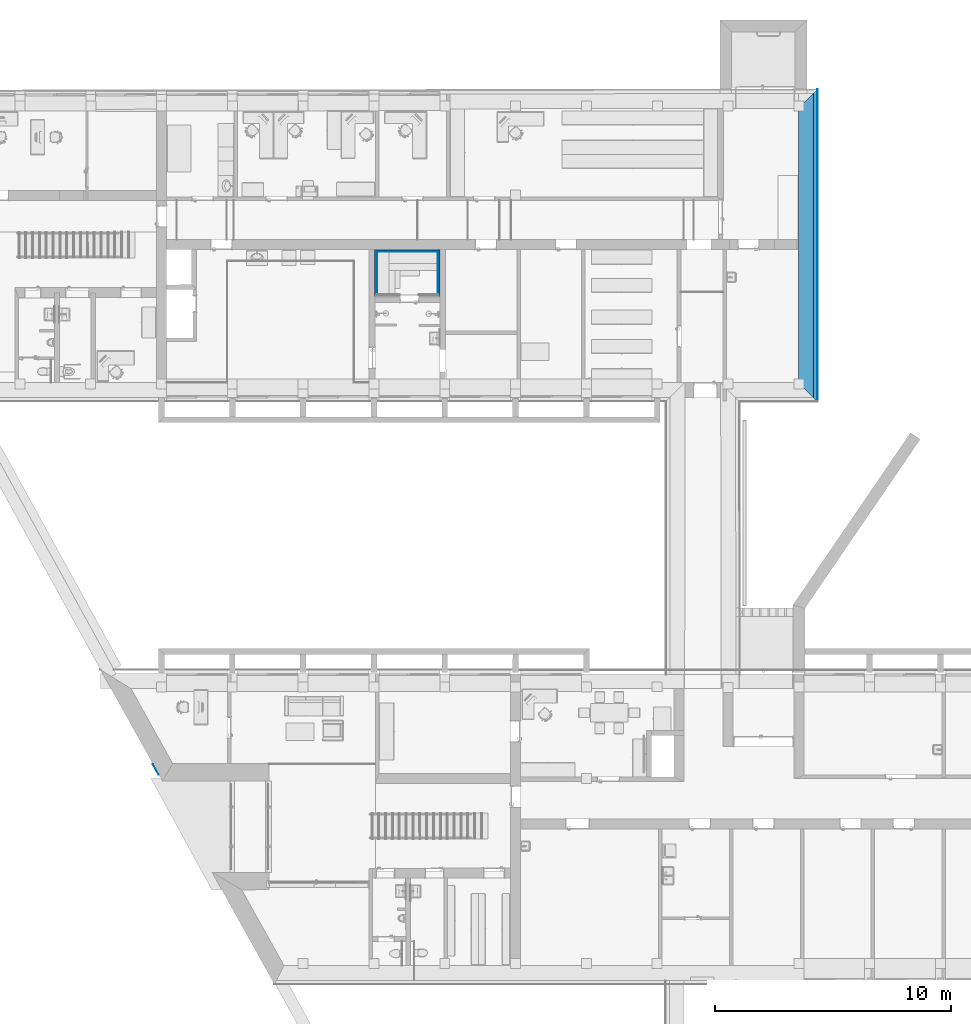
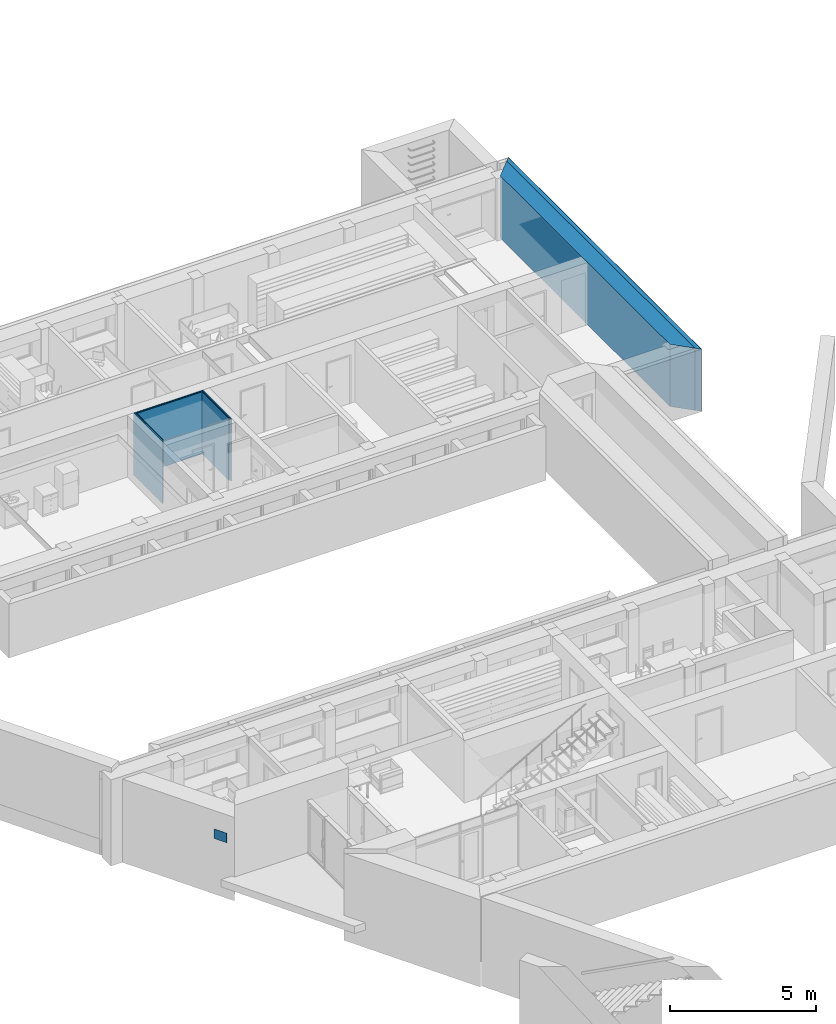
# One storey, part 31 of 127: 12 building element parts, 1 discrete accessory, 4 elements without a shape of their own.
"""IFC2X3 building model written with IfcOpenShell, lengths in millimetres."""

from ifc_helpers import new_model, entity, si_unit, converted_unit, derived_unit, money_unit, direction, frame, origin_with_axes, place, context, subcontext, project, spatial, polyline, outline, extrude, faceted_brep, source, transform, mapped, material, type_object, element, aggregate, save


model = new_model("IFC2X3")

# Units and contexts
model_context = context("Model", 3, precision=1e-05, world=origin_with_axes(), true_north=direction((0.0, 1.0)))
body_context = subcontext(model_context, "Body", "Model", "MODEL_VIEW")
ifc_project = project(units=[si_unit("LENGTHUNIT", "METRE", prefix="MILLI"), si_unit("AREAUNIT", "SQUARE_METRE"), si_unit("VOLUMEUNIT", "CUBIC_METRE"), converted_unit("PLANEANGLEUNIT", "DEGREE", entity("IfcPlaneAngleMeasure", 0.0174532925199), si_unit("PLANEANGLEUNIT", "RADIAN"), dimensions=[0, 0, 0, 0, 0, 0, 0]), si_unit("SOLIDANGLEUNIT", "STERADIAN"), money_unit("EUR"), converted_unit("TIMEUNIT", "Year", entity("IfcTimeMeasure", 31556926.0), si_unit("TIMEUNIT", "SECOND"), dimensions=[0, 0, 1, 0, 0, 0, 0]), si_unit("MASSUNIT", "GRAM", prefix="KILO"), si_unit("THERMODYNAMICTEMPERATUREUNIT", "DEGREE_CELSIUS"), si_unit("LUMINOUSINTENSITYUNIT", "LUMEN"), si_unit("ENERGYUNIT", "JOULE", prefix="MEGA"), derived_unit("THERMALCONDUCTANCEUNIT", [(si_unit("POWERUNIT", "WATT"), 1), (si_unit("LENGTHUNIT", "METRE"), -1), (si_unit("THERMODYNAMICTEMPERATUREUNIT", "KELVIN"), -1)]), derived_unit("SPECIFICHEATCAPACITYUNIT", [(si_unit("ENERGYUNIT", "JOULE"), 1), (si_unit("MASSUNIT", "GRAM", prefix="KILO"), -1), (si_unit("THERMODYNAMICTEMPERATUREUNIT", "KELVIN"), -1)]), derived_unit("MASSDENSITYUNIT", [(si_unit("MASSUNIT", "GRAM", prefix="KILO"), 1), (si_unit("VOLUMEUNIT", "CUBIC_METRE"), -1)])], contexts=[model_context])

# Site, building, storey
site_placement = place(None, origin_with_axes())
site = spatial("IfcSite", under=ifc_project, at=site_placement, Name="Site", CompositionType="ELEMENT")
building_placement = place(site_placement, origin_with_axes())
building = spatial("IfcBuilding", under=site, at=building_placement, Name="Building", CompositionType="ELEMENT")
storey_placement = place(building_placement, origin_with_axes())
storey = spatial("IfcBuildingStorey", under=building, at=storey_placement, Name="1 KORRUS", CompositionType="ELEMENT", Elevation=0.0)

# Discrete accessory
discrete_accessory_type = type_object("IfcDiscreteAccessoryType", Name="Cube 22")
shared_shape = source(origin_with_axes(), body_context, "Body", "Brep", [
    faceted_brep([(10.0, 0.0, 0.0), (0.0, 0.0, 0.0), (0.0, 500.0, 0.0), (10.0, 500.0, 0.0), (10.0, 0.0, 400.0), (0.0, 0.0, 400.0), (0.0, 500.0, 400.0), (10.0, 500.0, 400.0)], [[[0, 1, 2, 3]], [[1, 0, 4, 5]], [[2, 1, 5, 6]], [[3, 2, 6, 7]], [[0, 3, 7, 4]], [[5, 4, 7, 6]]]),
])
discrete_accessory_placement = place(storey_placement, frame((15590.9994611, 43415.1828646, 1323.05641988), z_axis=(0.0, 0.0, 1.0), x_axis=(-0.876214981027, -0.481920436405, 0.0)))
element("IfcDiscreteAccessory", 1, at=discrete_accessory_placement, inside=storey, type_object=discrete_accessory_type, Name="FU - 001", context=body_context, shape_type="MappedRepresentation", body=[
    mapped(shared_shape, transform((0.0, 0.0, 0.0))),
])

# Wall, building element parts
wall_type_1 = type_object("IfcWallType", Name="VS-3", PredefinedType="NOTDEFINED")
wall_1_placement = place(storey_placement, frame((43567.718217, 71831.6443043, 0.0), z_axis=(0.0, 0.0, 1.0), x_axis=(3.09948179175e-06, -0.999999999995, 0.0)))
wall_1 = element("IfcWall", 2, at=wall_1_placement, inside=storey, type_object=wall_type_1, Name="VS3 krohv")
ifc_material_1 = material(Name="Kivi - Ol.Olev Konstruktsioon")
building_element_part_1_placement = place(wall_1_placement, origin_with_axes())
building_element_part_1 = element("IfcBuildingElementPart", 3, at=building_element_part_1_placement, material=ifc_material_1, Name="Kivi - Ol.Olev Konstruktsioon", context=body_context, shape_type="SweptSolid", body=[
    extrude(outline(polyline([(630.780513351, -630.0), (12252.1619623, -630.0), (12882.163915, 0.0), (-15.7500120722, 1.13686837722e-10), (630.780513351, -630.0)])), origin_with_axes(), (0.0, 0.0, 1.0), 2600.0),
])
ifc_material_2 = material(Name="Soojustus - Plastik Kõva")
building_element_part_2_placement = place(wall_1_placement, origin_with_axes())
building_element_part_2 = element("IfcBuildingElementPart", 4, at=building_element_part_2_placement, material=ifc_material_2, Name="Soojustus - Plastik Kõva", context=body_context, shape_type="SweptSolid", body=[
    extrude(outline(polyline([(-15.7500120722, 1.13686837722e-10), (12882.163915, 0.0), (13042.1644109, 160.0), (-179.94824075, 160.0), (-15.7500120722, 1.13686837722e-10)])), origin_with_axes(), (0.0, 0.0, 1.0), 2600.0),
])
ifc_material_3 = material(Name="Krohv - Õhekrohv")
building_element_part_3_placement = place(wall_1_placement, origin_with_axes())
building_element_part_3 = element("IfcBuildingElementPart", 5, at=building_element_part_3_placement, material=ifc_material_3, Name="Krohv - Õhekrohv", context=body_context, shape_type="SweptSolid", body=[
    extrude(outline(polyline([(-179.94824075, 160.0), (13042.1644109, 160.0), (13052.1644419, 170.0), (-190.210630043, 170.0), (-179.94824075, 160.0)])), origin_with_axes(), (0.0, 0.0, 1.0), 2600.0),
])
aggregate(wall_1, [building_element_part_1, building_element_part_2, building_element_part_3])

wall_type_2 = type_object("IfcWallType", Name="SS-3", PredefinedType="NOTDEFINED")
wall_2_placement = place(storey_placement, frame((25075.1366535, 63317.8824025, 0.0), z_axis=(0.0, 0.0, 1.0), x_axis=(0.0, 1.0, 0.0)))
wall_2 = element("IfcWall", 6, at=wall_2_placement, inside=storey, type_object=wall_type_2, Name="SS-3")
ifc_material_4 = material(Name="Puitplaat")
building_element_part_4_placement = place(wall_2_placement, origin_with_axes())
building_element_part_4 = element("IfcBuildingElementPart", 7, at=building_element_part_4_placement, material=ifc_material_4, Name="Puitplaat", context=body_context, shape_type="SweptSolid", body=[
    extrude(outline(polyline([(0.0, 0.0), (1811.48665511, 0.0), (1826.48665512, 15.0), (-15.0000000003, 15.0), (0.0, 0.0)])), origin_with_axes(), (0.0, 0.0, 1.0), 2600.0),
])
ifc_material_5 = material(Name="Air Space")
building_element_part_5_placement = place(wall_2_placement, origin_with_axes())
building_element_part_5 = element("IfcBuildingElementPart", 8, at=building_element_part_5_placement, material=ifc_material_5, Name="Air Space", context=body_context, shape_type="SweptSolid", body=[
    extrude(outline(polyline([(-15.0000000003, 15.0), (1826.48665512, 15.0), (1848.48665513, 37.0), (-37.0000000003, 37.0), (-15.0000000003, 15.0)])), origin_with_axes(), (0.0, 0.0, 1.0), 2600.0),
])
building_element_part_6_placement = place(wall_2_placement, origin_with_axes())
building_element_part_6 = element("IfcBuildingElementPart", 9, at=building_element_part_6_placement, material=ifc_material_4, Name="Puitplaat", context=body_context, shape_type="SweptSolid", body=[
    extrude(outline(polyline([(-37.0000000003, 37.0), (1848.48665513, 37.0), (1898.48665516, 87.0), (-87.0000000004, 87.0), (-37.0000000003, 37.0)])), origin_with_axes(), (0.0, 0.0, 1.0), 2600.0),
])
aggregate(wall_2, [building_element_part_4, building_element_part_5, building_element_part_6])

wall_3_placement = place(storey_placement, frame((25075.1366535, 65129.3690576, 0.0), z_axis=(0.0, 0.0, 1.0), x_axis=(1.0, -6.08076062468e-10, 0.0)))
wall_3 = element("IfcWall", 10, at=wall_3_placement, inside=storey, type_object=wall_type_2, Name="SS-3")
building_element_part_7_placement = place(wall_3_placement, origin_with_axes())
building_element_part_7 = element("IfcBuildingElementPart", 11, at=building_element_part_7_placement, material=ifc_material_4, Name="Puitplaat", context=body_context, shape_type="SweptSolid", body=[
    extrude(outline(polyline([(0.0, 0.0), (2572.59080501, 0.0), (2587.590805, 15.0000000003), (-15.0000000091, 15.0000000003), (0.0, 0.0)])), origin_with_axes(), (0.0, 0.0, 1.0), 2600.0),
])
building_element_part_8_placement = place(wall_3_placement, origin_with_axes())
building_element_part_8 = element("IfcBuildingElementPart", 12, at=building_element_part_8_placement, material=ifc_material_5, Name="Air Space", context=body_context, shape_type="SweptSolid", body=[
    extrude(outline(polyline([(-15.0000000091, 15.0000000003), (2587.590805, 15.0000000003), (2609.59080498, 37.0000000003), (-37.0000000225, 37.0000000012), (-15.0000000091, 15.0000000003)])), origin_with_axes(), (0.0, 0.0, 1.0), 2600.0),
])
building_element_part_9_placement = place(wall_3_placement, origin_with_axes())
building_element_part_9 = element("IfcBuildingElementPart", 13, at=building_element_part_9_placement, material=ifc_material_4, Name="Puitplaat", context=body_context, shape_type="SweptSolid", body=[
    extrude(outline(polyline([(-37.0000000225, 37.0000000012), (2609.59080498, 37.0000000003), (2659.59080495, 87.0000000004), (-87.0000000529, 87.0000000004), (-37.0000000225, 37.0000000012)])), origin_with_axes(), (0.0, 0.0, 1.0), 2600.0),
])
aggregate(wall_3, [building_element_part_7, building_element_part_8, building_element_part_9])

wall_4_placement = place(storey_placement, frame((27647.7274585, 65129.3690561, 0.0), z_axis=(0.0, 0.0, 1.0), x_axis=(0.0, -1.0, 0.0)))
wall_4 = element("IfcWall", 14, at=wall_4_placement, inside=storey, type_object=wall_type_2, Name="SS-3")
building_element_part_10_placement = place(wall_4_placement, origin_with_axes())
building_element_part_10 = element("IfcBuildingElementPart", 15, at=building_element_part_10_placement, material=ifc_material_4, Name="Puitplaat", context=body_context, shape_type="SweptSolid", body=[
    extrude(outline(polyline([(0.0, 0.0), (1811.48665355, 0.0), (1826.48665355, 15.0), (-14.9999999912, 15.0), (0.0, 0.0)])), origin_with_axes(), (0.0, 0.0, 1.0), 2600.0),
])
building_element_part_11_placement = place(wall_4_placement, origin_with_axes())
building_element_part_11 = element("IfcBuildingElementPart", 16, at=building_element_part_11_placement, material=ifc_material_5, Name="Air Space", context=body_context, shape_type="SweptSolid", body=[
    extrude(outline(polyline([(-14.9999999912, 15.0), (1826.48665355, 15.0), (1848.48665355, 37.0), (-36.9999999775, 37.0), (-14.9999999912, 15.0)])), origin_with_axes(), (0.0, 0.0, 1.0), 2600.0),
])
building_element_part_12_placement = place(wall_4_placement, origin_with_axes())
building_element_part_12 = element("IfcBuildingElementPart", 17, at=building_element_part_12_placement, material=ifc_material_4, Name="Puitplaat", context=body_context, shape_type="SweptSolid", body=[
    extrude(outline(polyline([(-36.9999999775, 37.0), (1848.48665355, 37.0), (1898.48665355, 87.0), (-86.9999999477, 87.0), (-36.9999999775, 37.0)])), origin_with_axes(), (0.0, 0.0, 1.0), 2600.0),
])
aggregate(wall_4, [building_element_part_10, building_element_part_11, building_element_part_12])

save(model, "model.ifc")
